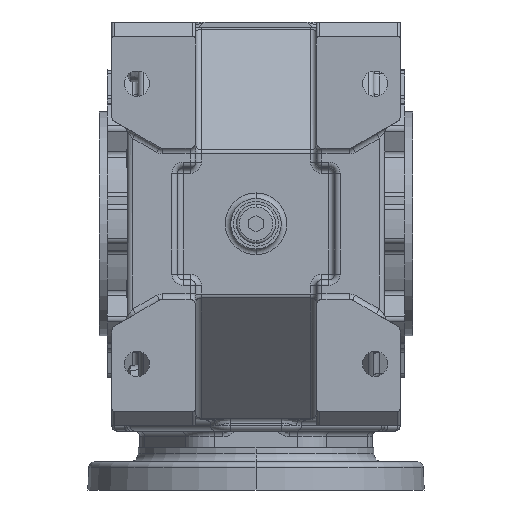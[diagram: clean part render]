
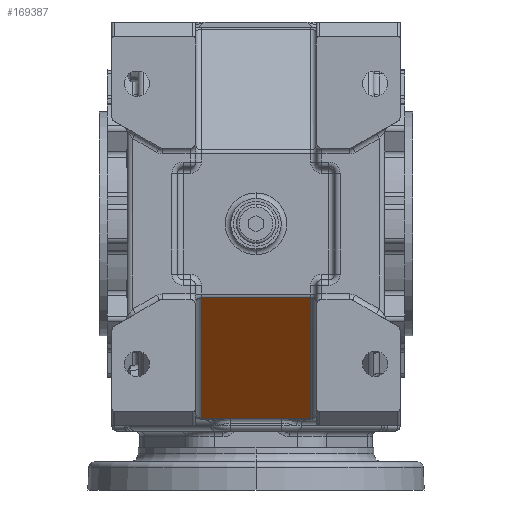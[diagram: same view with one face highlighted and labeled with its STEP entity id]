
A CAD part, front view. The second image highlights one B-rep face of the part: STEP entity #169387.
In plain terms, the highlighted planar face has unit normal (0, -0.707, -0.707).
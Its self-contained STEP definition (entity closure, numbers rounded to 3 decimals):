
#36396 = CARTESIAN_POINT ( 'NONE',  ( 19.5, -61.914, -26.474 ) ) ;
#36399 = DIRECTION ( 'NONE',  ( 0., -0.707, 0.707 ) ) ;
#36400 = VECTOR ( 'NONE', #36399, 1000. ) ;
#36402 = CARTESIAN_POINT ( 'NONE',  ( 19.5, -62.5, -25.888 ) ) ;
#36404 = LINE ( 'NONE', #36402, #36400 ) ;
#36408 = CARTESIAN_POINT ( 'NONE',  ( -19.5, -18.974, -69.414 ) ) ;
#36410 = CARTESIAN_POINT ( 'NONE',  ( 19.5, -18.974, -69.414 ) ) ;
#36412 = DIRECTION ( 'NONE',  ( -1., 0., 0. ) ) ;
#36414 = VECTOR ( 'NONE', #36412, 1000. ) ;
#36416 = CARTESIAN_POINT ( 'NONE',  ( 34., -18.974, -69.414 ) ) ;
#36417 = LINE ( 'NONE', #36416, #36414 ) ;
#36511 = CARTESIAN_POINT ( 'NONE',  ( -19.5, -61.914, -26.474 ) ) ;
#36528 = DIRECTION ( 'NONE',  ( -1., 0., 0. ) ) ;
#36530 = VECTOR ( 'NONE', #36528, 1000. ) ;
#36531 = CARTESIAN_POINT ( 'NONE',  ( 34., -61.914, -26.474 ) ) ;
#36533 = LINE ( 'NONE', #36531, #36530 ) ;
#36655 = DIRECTION ( 'NONE',  ( 0., 0.707, -0.707 ) ) ;
#36656 = VECTOR ( 'NONE', #36655, 1000. ) ;
#36658 = CARTESIAN_POINT ( 'NONE',  ( -19.5, -62.5, -25.888 ) ) ;
#36660 = LINE ( 'NONE', #36658, #36656 ) ;
#36713 = DIRECTION ( 'NONE',  ( 0., -0.707, 0.707 ) ) ;
#36715 = DIRECTION ( 'NONE',  ( 0., 0.707, 0.707 ) ) ;
#36717 = CARTESIAN_POINT ( 'NONE',  ( 34., -62.5, -25.888 ) ) ;
#36718 = AXIS2_PLACEMENT_3D ( 'NONE', #36717, #36715, #36713 ) ;
#36723 = PLANE ( 'NONE',  #36718 ) ;
#36726 = FACE_OUTER_BOUND ( 'NONE', #169390, .T. ) ;
#169225 = ORIENTED_EDGE ( 'NONE', *, *, #169229, .F. ) ;
#169229 = EDGE_CURVE ( 'NONE', #169230, #169232, #36417, .T. ) ;
#169230 = VERTEX_POINT ( 'NONE', #36410 ) ;
#169232 = VERTEX_POINT ( 'NONE', #36408 ) ;
#169234 = ORIENTED_EDGE ( 'NONE', *, *, #169236, .T. ) ;
#169236 = EDGE_CURVE ( 'NONE', #169230, #169238, #36404, .T. ) ;
#169238 = VERTEX_POINT ( 'NONE', #36396 ) ;
#169245 = ORIENTED_EDGE ( 'NONE', *, *, #169249, .T. ) ;
#169249 = EDGE_CURVE ( 'NONE', #169238, #169257, #36533, .T. ) ;
#169257 = VERTEX_POINT ( 'NONE', #36511 ) ;
#169259 = ORIENTED_EDGE ( 'NONE', *, *, #169346, .T. ) ;
#169346 = EDGE_CURVE ( 'NONE', #169257, #169232, #36660, .T. ) ;
#169387 = ADVANCED_FACE ( 'NONE', ( #36726 ), #36723, .F. ) ;
#169390 = EDGE_LOOP ( 'NONE', ( #169225, #169234, #169245, #169259 ) ) ;
